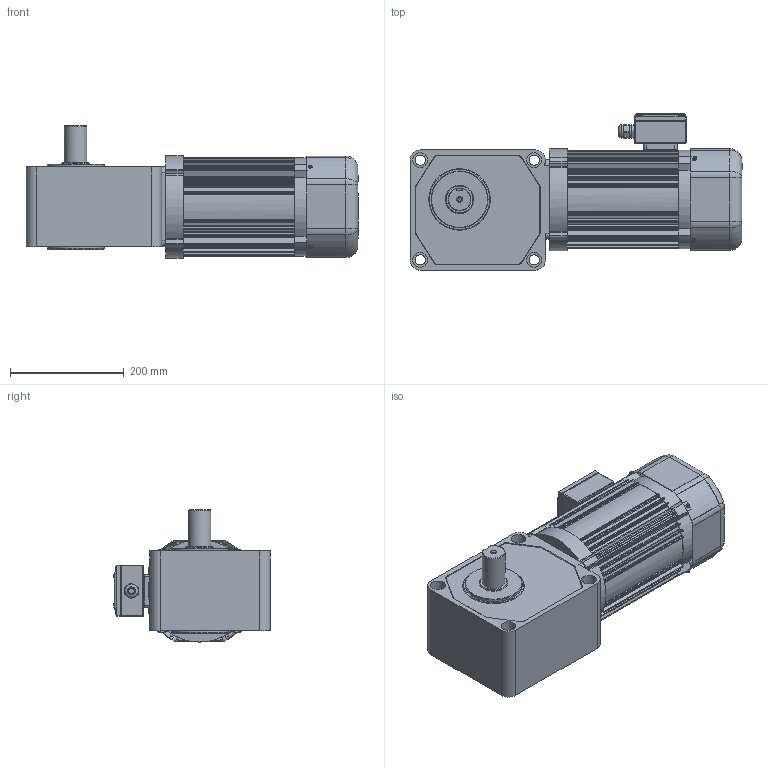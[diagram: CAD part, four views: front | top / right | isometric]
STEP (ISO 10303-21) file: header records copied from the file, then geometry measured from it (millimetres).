
FILE_DESCRIPTION(/* description */ (''),/* implementation_level */ '2;1');
FILE_NAME(/* name */ 'Z:\동력 3D 파일\PCS40R_1.5kW_Brake_3D.stp',/* time_stamp */ '2021-11-09T13:42:57+09:00',/* author */ ('jaebok'),/* organization */ (''),/* preprocessor_version */ 'ST-DEVELOPER v18.1',/* originating_system */ 'Autodesk Inventor 2022',/* authorisation */ '');
FILE_SCHEMA (('AUTOMOTIVE_DESIGN { 1 0 10303 214 3 1 1 }'));
Length unit declared in the file: millimetre
Products named in the file (1): 부품76
Bounding box: 582.8 x 274.5 x 232 mm (x, y, z)
Volume: 10040715.7 mm3; surface area: 900628.7 mm2
Topology: 1 solids, 23 shells, 1342 faces, 3571 edges, 2308 vertices
Faces by surface type: plane 652, cylinder 578, cone 49, torus 33, sphere 20, bspline 10
Full cylindrical faces by diameter (mm): 3.25 x1, 3.6 x4, 4 x22, 4.917 x4, 5 x13, 6 x5, 6.647 x1, 7 x12, 8 x1, 10 x2, 12.5 x1, 15 x1, 18 x4, 20 x2, 21 x1, 23.6 x1, 25 x1, 26 x4, 36 x1, 40 x1, 100 x2, 156 x2, 160 x2, 161 x1, 165 x1, 165.4 x2, 168 x4
Entity records: 44509 total; most frequent: CARTESIAN_POINT 9074, DIRECTION 7425, ORIENTED_EDGE 7082, EDGE_CURVE 3541, AXIS2_PLACEMENT_3D 2756, VERTEX_POINT 2307, LINE 1913, VECTOR 1913
